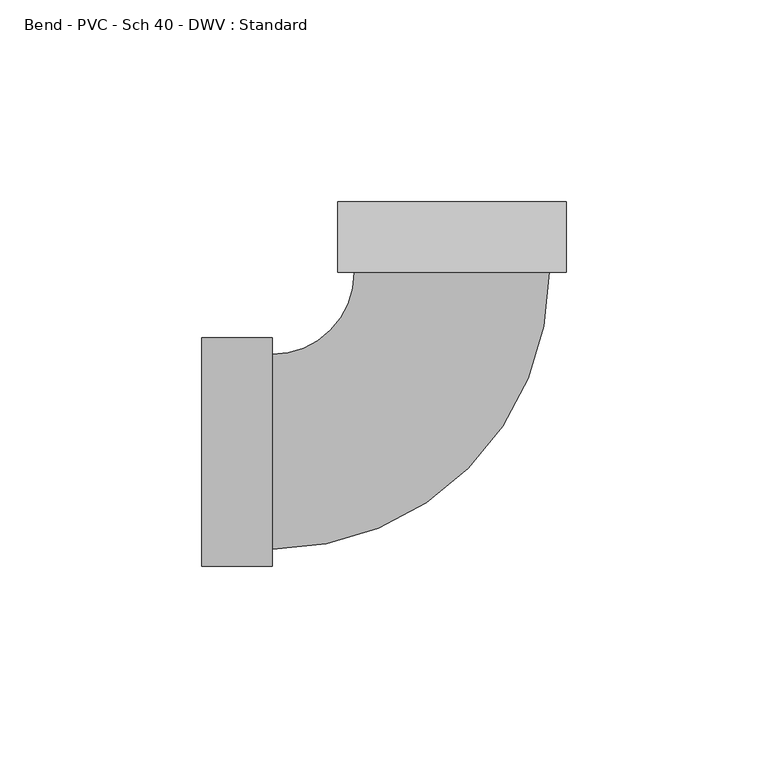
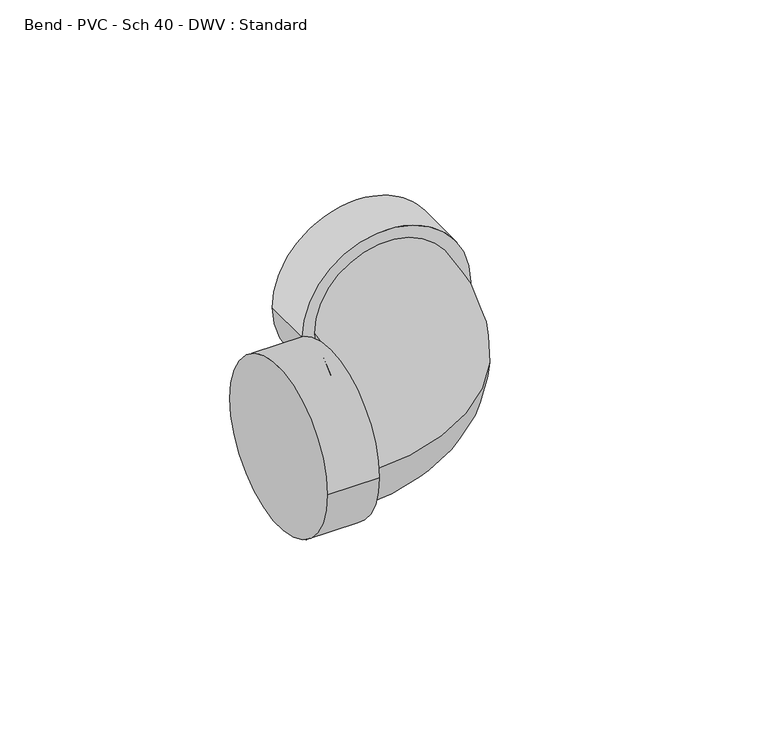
"""IFC4 building model written with IfcOpenShell, lengths in millimetres: pipe fitting geometry, Bend - PVC - Sch 40 - DWV : Standard."""

from ifc_helpers import new_model, si_unit, point, frame, origin, place, context, project, spatial, circle_curve, ellipse_curve, trimmed, source, transform, mapped, element, save
from ifc_brep_helpers import plane_surface, cylinder_surface, revolved_surface, advanced_brep


def bend_pvc_sch_40_dwv_standard_1a9722b0(model_context):
    return source(origin(), model_context, "Body", "AdvancedBrep", [
        advanced_brep(
        [(-61.8998, -28.2829, 0.0), (-61.8998, 28.2829, 0.0), (-44.45, -28.2829, 0.0), (-44.45, 28.2829, 0.0), (-44.45, -24.13, 0.0), (-44.45, 24.13, 0.0), (-24.1378237, 44.445752, 0.0), (24.1221756, 44.4542467, 0.0), (28.2750755, 44.4549777, 0.0), (-28.2907236, 44.445021, 0.0), (28.272004, 61.9047774, 0.0), (-28.2937951, 61.8948207, 0.0)],
        [
            (0, 1, circle_curve(frame((-61.8998, 0.0, 0.0), z_axis=(-1.0, 0.0, 0.0), x_axis=(0.0, 1.0, 0.0)), 28.2829)),
            (1, 0, circle_curve(frame((-61.8998, 0.0, 0.0), z_axis=(-1.0, 0.0, 0.0), x_axis=(0.0, 1.0, 0.0)), 28.2829)),
            (2, 3, circle_curve(frame((-44.45, 0.0, 0.0), z_axis=(1.0, 0.0, 0.0), x_axis=(0.0, 1.0, 0.0)), 28.2829)),
            (3, 2, circle_curve(frame((-44.45, 0.0, 0.0), z_axis=(1.0, 0.0, 0.0), x_axis=(0.0, 1.0, 0.0)), 28.2829)),
            (4, 5, circle_curve(frame((-44.45, 0.0, 0.0), z_axis=(-1.0, 0.0, 0.0), x_axis=(0.0, 1.0, 0.0)), 24.13)),
            (5, 4, circle_curve(frame((-44.45, 0.0, 0.0), z_axis=(-1.0, 0.0, 0.0), x_axis=(0.0, 1.0, 0.0)), 24.13)),
            (0, 2),
            (3, 1),
            (6, 5, circle_curve(frame((-44.45, 44.4421766, 0.0), z_axis=(0.0, 0.0, -1.0), x_axis=(0.0, -1.0, 0.0)), 20.3121766)),
            (4, 7, circle_curve(frame((-44.45, 44.4421766, 0.0), z_axis=(0.0, 0.0, 1.0), x_axis=(0.0, -1.0, 0.0)), 68.5721766)),
            (7, 6, circle_curve(frame((-0.0078241, 44.4499993, 0.0), z_axis=(0.00017601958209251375, -0.9999999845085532, 0.0), x_axis=(-0.9999999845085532, -0.00017601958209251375, 0.0)), 24.13)),
            (6, 7, circle_curve(frame((-0.0078241, 44.4499993, 0.0), z_axis=(0.00017601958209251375, -0.9999999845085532, 0.0), x_axis=(-0.9999999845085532, -0.00017601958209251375, 0.0)), 24.13)),
            (8, 9, circle_curve(frame((-0.0078241, 44.4499993, 0.0), z_axis=(0.00017601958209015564, -0.9999999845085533, 0.0), x_axis=(-0.9999999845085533, -0.00017601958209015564, 0.0)), 28.2829)),
            (9, 8, circle_curve(frame((-0.0078241, 44.4499993, 0.0), z_axis=(0.00017601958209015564, -0.9999999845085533, 0.0), x_axis=(-0.9999999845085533, -0.00017601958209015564, 0.0)), 28.2829)),
            (10, 11, circle_curve(frame((-0.0108956, 61.899799, 0.0), z_axis=(-0.00017601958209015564, 0.9999999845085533, 0.0), x_axis=(-0.9999999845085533, -0.00017601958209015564, 0.0)), 28.2829)),
            (11, 10, circle_curve(frame((-0.0108956, 61.899799, 0.0), z_axis=(-0.00017601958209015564, 0.9999999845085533, 0.0), x_axis=(-0.9999999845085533, -0.00017601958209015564, 0.0)), 28.2829)),
            (8, 10),
            (11, 9),
        ],
        [
            plane_surface(frame((-61.8998, 0.0, 0.0), z_axis=(-1.0, 0.0, 0.0), x_axis=(0.0, 0.0, 1.0))),
            plane_surface(frame((-44.45, 0.0, 0.0), z_axis=(1.0, 0.0, 0.0), x_axis=(0.0, 0.0, 1.0))),
            cylinder_surface(frame((-61.8998, 0.0, 0.0), z_axis=(-1.0, 0.0, 0.0), x_axis=(0.0, 1.0, 0.0)), 28.2829),
            revolved_surface(trimmed(ellipse_curve(frame((-44.45, 0.0, 0.0), z_axis=(-1.0, 0.0, 0.0), x_axis=(0.0, 1.0, 0.0)), 24.13, 24.13), [point((-44.45, -24.13, 0.0))], [point((-44.45, 24.13, 0.0))], True, "CARTESIAN"), (-44.45, 44.4421766, 0.0), (0.0, 0.0, 1.0)),
            revolved_surface(trimmed(ellipse_curve(frame((-44.45, 0.0, 0.0), z_axis=(-1.0, 0.0, 0.0), x_axis=(0.0, 1.0, 0.0)), 24.13, 24.13), [point((-44.45, 24.13, 0.0))], [point((-44.45, -24.13, 0.0))], True, "CARTESIAN"), (-44.45, 44.4421766, 0.0), (0.0, 0.0, 1.0)),
            plane_surface(frame((-0.0078241, 44.4499993, 0.0), z_axis=(0.00017601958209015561, -0.9999999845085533, 0.0), x_axis=(0.0, 0.0, 1.0))),
            plane_surface(frame((-0.0108956, 61.899799, 0.0), z_axis=(-0.00017601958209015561, 0.9999999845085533, 0.0), x_axis=(0.0, 0.0, 1.0))),
            cylinder_surface(frame((-0.0078241, 44.4499993, 0.0), z_axis=(0.00017601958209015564, -0.9999999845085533, 0.0), x_axis=(-0.9999999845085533, -0.00017601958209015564, 0.0)), 28.2829),
        ],
        [
            (0, [[1, 2]]),
            (1, [[3, 4], [5, 6]]),
            (2, [[-1, 7, -4, 8]]),
            (2, [[-2, -8, -3, -7]]),
            (3, [[9, -5, 10, 11]]),
            (4, [[-9, 12, -10, -6]]),
            (5, [[13, 14], [-11, -12]]),
            (6, [[15, 16]]),
            (7, [[-13, 17, -16, 18]]),
            (7, [[-14, -18, -15, -17]]),
        ],
    ),
    ])


if __name__ == "__main__":
    model = new_model("IFC4")
    model_context = context("Model", 3, world=origin())
    ifc_project = project(units=[si_unit("LENGTHUNIT", "METRE", prefix="MILLI")], contexts=[model_context])
    site = spatial("IfcSite", under=ifc_project)
    building = spatial("IfcBuilding", under=site)
    placement = place(None, origin())
    bend_pvc_sch_40_dwv_standard_shape = bend_pvc_sch_40_dwv_standard_1a9722b0(model_context)
    element("IfcPipeFitting", 1, ObjectType="Bend - PVC - Sch 40 - DWV : Standard", at=placement, inside=building, context=model_context, shape_type="MappedRepresentation", body=[
        mapped(bend_pvc_sch_40_dwv_standard_shape, transform((0.0, 0.0, 0.0), x_axis=(1.0, 0.0, 0.0), y_axis=(0.0, 1.0, 0.0), z_axis=(0.0, 0.0, 1.0))),
    ])
    save(model, "model.ifc")
